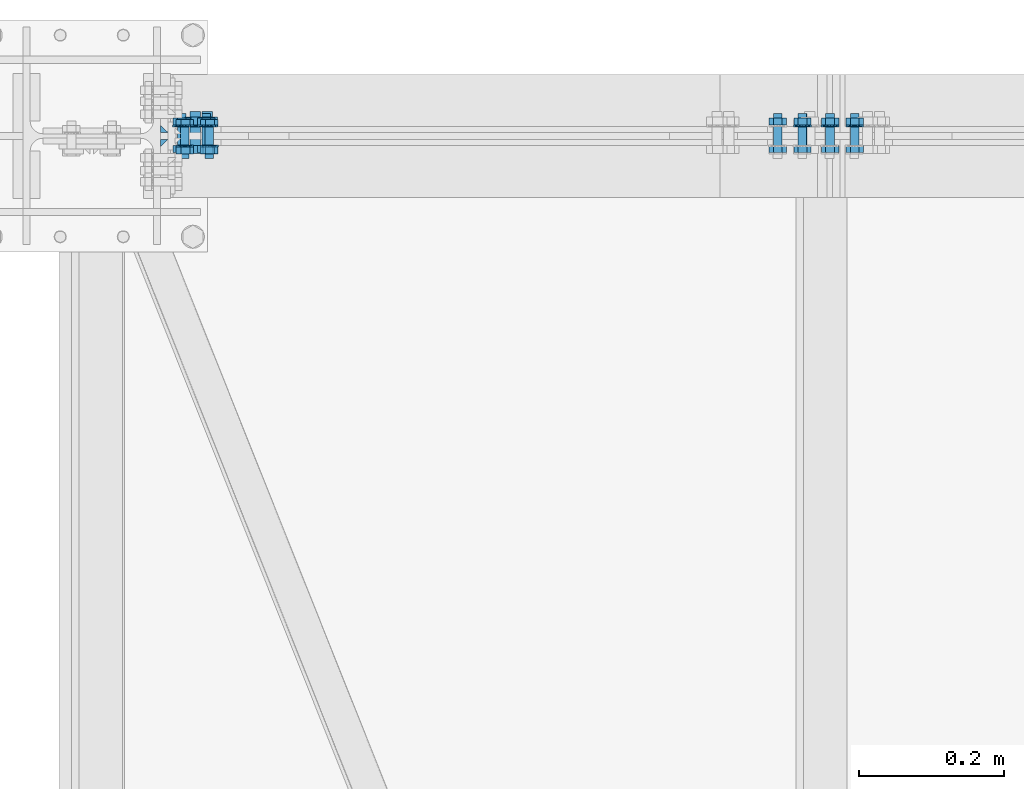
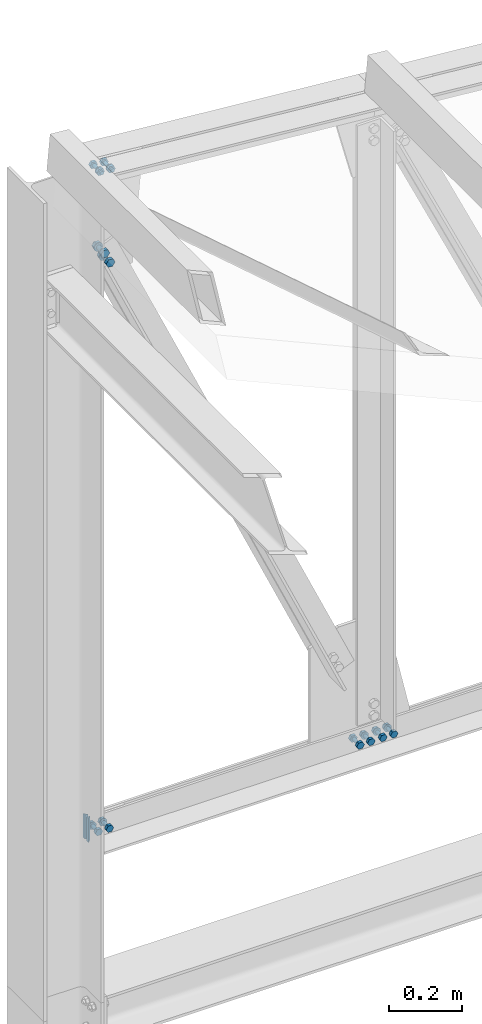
# One storey, part 191 of 251: 39 mechanical fasteners, 2 fasteners.
"""IFC4 building model written with IfcOpenShell, lengths in metres."""

from ifc_helpers import new_model, si_unit, frame, origin_with_axes, place, context, project, spatial, polyline, outline, extrude, type_object, element, save


model = new_model("IFC4")

# Units and contexts
model_context = context("Model", 3, precision=1e-05, world=origin_with_axes())
ifc_project = project(units=[si_unit("LENGTHUNIT", "METRE"), si_unit("AREAUNIT", "SQUARE_METRE"), si_unit("VOLUMEUNIT", "CUBIC_METRE"), si_unit("MASSUNIT", "GRAM", prefix="KILO"), si_unit("TIMEUNIT", "SECOND"), si_unit("PLANEANGLEUNIT", "RADIAN"), si_unit("SOLIDANGLEUNIT", "STERADIAN"), si_unit("THERMODYNAMICTEMPERATUREUNIT", "DEGREE_CELSIUS")], contexts=[model_context])

# Site, building, storey
placement_1 = place(None, origin_with_axes())
site = spatial("IfcSite", under=ifc_project, at=placement_1, Name="Italia", CompositionType="ELEMENT")
building = spatial("IfcBuilding", under=site, at=placement_1, Name="Deposito", CompositionType="ELEMENT")
storey = spatial("IfcBuildingStorey", under=building, at=placement_1, Name="Storey 0", CompositionType="ELEMENT", Elevation=0.0)

# Fasteners
fastener_type_1 = type_object("IfcFastenerType", Name="Reticolare 6", PredefinedType="WELD")
placement_2 = place(placement_1, origin_with_axes())
fastener_1_placement = place(placement_2, origin_with_axes())
element("IfcFastener", 1, at=fastener_1_placement, inside=storey, type_object=fastener_type_1, Name="Reticolare 6", context=model_context, shape_type="SweptSolid", body=[
    extrude(outline(polyline([(0.0, 0.0), (0.00986862, 0.0101733), (0.00986862, 0.0), (0.0, 0.0)])), frame((6.14495, 19.9852, 5.05753), z_axis=(0.0, 0.0, -1.0), x_axis=(0.0, 1.0, 0.0)), (0.0, 0.0, 1.0), 0.0801001),
])
fastener_type_2 = type_object("IfcFastenerType", Name="Reticolare 6", PredefinedType="WELD")
fastener_2_placement = place(placement_2, origin_with_axes())
element("IfcFastener", 2, at=fastener_2_placement, inside=storey, type_object=fastener_type_2, Name="Reticolare 6", context=model_context, shape_type="SweptSolid", body=[
    extrude(outline(polyline([(0.0, 0.0), (-0.00986862, -0.0101733), (-0.00986862, 0.0), (0.0, 0.0)])), frame((6.14495, 20.0148, 4.97743), z_axis=(0.0, 0.0, 1.0), x_axis=(0.0, 1.0, 0.0)), (0.0, 0.0, 1.0), 0.0801001),
])

# Mechanical fasteners
mechanical_fastener_type_1 = type_object("IfcMechanicalFastenerType", Name="Reticolare 6", PredefinedType="BOLT")
mechanical_fastener_1_placement = place(placement_2, origin_with_axes())
element("IfcMechanicalFastener", 3, at=mechanical_fastener_1_placement, inside=storey, type_object=mechanical_fastener_type_1, Name="Reticolare 6", NominalDiameter=0.0119999, context=model_context, shape_type="SweptSolid", body=[
    extrude(outline(polyline([(0.0, 0.0), (-0.0120001, 0.0), (-0.0180001, 0.0103922), (-0.0120001, 0.0207844), (0.0, 0.0207844), (0.00600004, 0.0103922), (0.0, 0.0)])), frame((6.18005, 19.987, 4.99661), z_axis=(0.0, -1.0, 0.0), x_axis=(1.0, 0.0, 0.0)), (0.0, 0.0, 1.0), 0.00959969),
])
mechanical_fastener_type_2 = type_object("IfcMechanicalFastenerType", Name="Reticolare 6", PredefinedType="BOLT")
mechanical_fastener_2_placement = place(placement_2, origin_with_axes())
element("IfcMechanicalFastener", 4, at=mechanical_fastener_2_placement, inside=storey, type_object=mechanical_fastener_type_2, Name="Reticolare 6", NominalDiameter=0.012, context=model_context, shape_type="SweptSolid", body=[
    extrude(outline(polyline([(0.0, 0.0), (-0.000204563, -0.00155306), (-0.000803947, -0.00299978), (-0.00175762, -0.00424242), (-0.00300026, -0.00519609), (-0.00444698, -0.00579548), (-0.00600004, -0.00600004), (-0.0075531, -0.00579548), (-0.00899982, -0.00519609), (-0.0102425, -0.00424242), (-0.0111961, -0.00299978), (-0.0117955, -0.00155306), (-0.0120001, 0.0), (-0.0117955, 0.00155306), (-0.0111961, 0.00299978), (-0.0102425, 0.00424242), (-0.00899982, 0.00519609), (-0.0075531, 0.00579548), (-0.00600004, 0.00600004), (-0.00444698, 0.00579548), (-0.00300026, 0.00519609), (-0.00175762, 0.00424242), (-0.000803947, 0.00299978), (-0.000204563, 0.00155306), (0.0, 0.0)])), frame((6.18005, 20.031, 5.007), z_axis=(0.0, -1.0, 0.0), x_axis=(1.0, 0.0, 0.0)), (0.0, 0.0, 1.0), 0.0440006),
])
mechanical_fastener_type_3 = type_object("IfcMechanicalFastenerType", Name="Reticolare 6", PredefinedType="BOLT")
mechanical_fastener_3_placement = place(placement_2, origin_with_axes())
element("IfcMechanicalFastener", 5, at=mechanical_fastener_3_placement, inside=storey, type_object=mechanical_fastener_type_3, Name="Reticolare 6", NominalDiameter=0.0119999, context=model_context, shape_type="SweptSolid", body=[
    extrude(outline(polyline([(0.0, 0.0), (-0.0120001, 0.0), (-0.0180001, 0.0103922), (-0.0120001, 0.0207844), (0.0, 0.0207844), (0.00600004, 0.0103922), (0.0, 0.0)])), frame((6.18005, 20.0246, 4.99661), z_axis=(0.0, -1.0, 0.0), x_axis=(1.0, 0.0, 0.0)), (0.0, 0.0, 1.0), 0.00959969),
])
mechanical_fastener_type_4 = type_object("IfcMechanicalFastenerType", Name="Reticolare 6", PredefinedType="BOLT")
mechanical_fastener_4_placement = place(placement_2, origin_with_axes())
element("IfcMechanicalFastener", 6, at=mechanical_fastener_4_placement, inside=storey, type_object=mechanical_fastener_type_4, Name="Reticolare 6", NominalDiameter=0.024, context=model_context, shape_type="SweptSolid", body=[
    extrude(outline(polyline([(0.0, 0.0), (-0.000409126, -0.00310564), (-0.00160789, -0.00600004), (-0.00351477, -0.00848532), (-0.00600004, -0.0103922), (-0.00889444, -0.011591), (-0.0120001, -0.0120001), (-0.0151057, -0.011591), (-0.0180001, -0.0103922), (-0.0204854, -0.00848532), (-0.0223923, -0.00600004), (-0.023591, -0.00310564), (-0.0240002, 0.0), (-0.023591, 0.00310564), (-0.0223923, 0.00600004), (-0.0204854, 0.00848532), (-0.0180001, 0.0103922), (-0.0151057, 0.011591), (-0.0120001, 0.0120001), (-0.00889444, 0.011591), (-0.00600004, 0.0103922), (-0.00351477, 0.00848532), (-0.00160789, 0.00600004), (-0.000409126, 0.00310564), (0.0, 0.0)])), frame((6.18605, 20.015, 5.007), z_axis=(0.0, -1.0, 0.0), x_axis=(1.0, 0.0, 0.0)), (0.0, 0.0, 1.0), 0.0019989),
])
mechanical_fastener_type_5 = type_object("IfcMechanicalFastenerType", Name="Reticolare 6", PredefinedType="BOLT")
mechanical_fastener_5_placement = place(placement_2, origin_with_axes())
element("IfcMechanicalFastener", 7, at=mechanical_fastener_5_placement, inside=storey, type_object=mechanical_fastener_type_5, Name="Reticolare 6", NominalDiameter=0.0119999, context=model_context, shape_type="SweptSolid", body=[
    extrude(outline(polyline([(0.0, 0.0), (-0.0120001, 0.0), (-0.0180001, 0.0103922), (-0.0120001, 0.0207844), (0.0, 0.0207844), (0.00600004, 0.0103922), (0.0, 0.0)])), frame((6.21405, 19.987, 4.99661), z_axis=(0.0, -1.0, 0.0), x_axis=(1.0, 0.0, 0.0)), (0.0, 0.0, 1.0), 0.00959969),
])
mechanical_fastener_type_6 = type_object("IfcMechanicalFastenerType", Name="Reticolare 6", PredefinedType="BOLT")
mechanical_fastener_6_placement = place(placement_2, origin_with_axes())
element("IfcMechanicalFastener", 8, at=mechanical_fastener_6_placement, inside=storey, type_object=mechanical_fastener_type_6, Name="Reticolare 6", NominalDiameter=0.012, context=model_context, shape_type="SweptSolid", body=[
    extrude(outline(polyline([(0.0, 0.0), (-0.000204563, -0.00155306), (-0.000803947, -0.00299978), (-0.00175762, -0.00424242), (-0.00300026, -0.00519609), (-0.00444698, -0.00579548), (-0.00600004, -0.00600004), (-0.0075531, -0.00579548), (-0.00899982, -0.00519609), (-0.0102425, -0.00424242), (-0.0111961, -0.00299978), (-0.0117955, -0.00155306), (-0.0120001, 0.0), (-0.0117955, 0.00155306), (-0.0111961, 0.00299978), (-0.0102425, 0.00424242), (-0.00899982, 0.00519609), (-0.0075531, 0.00579548), (-0.00600004, 0.00600004), (-0.00444698, 0.00579548), (-0.00300026, 0.00519609), (-0.00175762, 0.00424242), (-0.000803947, 0.00299978), (-0.000204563, 0.00155306), (0.0, 0.0)])), frame((6.21405, 20.031, 5.007), z_axis=(0.0, -1.0, 0.0), x_axis=(1.0, 0.0, 0.0)), (0.0, 0.0, 1.0), 0.0440006),
])
mechanical_fastener_type_7 = type_object("IfcMechanicalFastenerType", Name="Reticolare 6", PredefinedType="BOLT")
mechanical_fastener_7_placement = place(placement_2, origin_with_axes())
element("IfcMechanicalFastener", 9, at=mechanical_fastener_7_placement, inside=storey, type_object=mechanical_fastener_type_7, Name="Reticolare 6", NominalDiameter=0.0119999, context=model_context, shape_type="SweptSolid", body=[
    extrude(outline(polyline([(0.0, 0.0), (-0.0120001, 0.0), (-0.0180001, 0.0103922), (-0.0120001, 0.0207844), (0.0, 0.0207844), (0.00600004, 0.0103922), (0.0, 0.0)])), frame((6.21405, 20.0246, 4.99661), z_axis=(0.0, -1.0, 0.0), x_axis=(1.0, 0.0, 0.0)), (0.0, 0.0, 1.0), 0.00959969),
])
mechanical_fastener_type_8 = type_object("IfcMechanicalFastenerType", Name="Reticolare 6", PredefinedType="BOLT")
mechanical_fastener_8_placement = place(placement_2, origin_with_axes())
element("IfcMechanicalFastener", 10, at=mechanical_fastener_8_placement, inside=storey, type_object=mechanical_fastener_type_8, Name="Reticolare 6", NominalDiameter=0.024, context=model_context, shape_type="SweptSolid", body=[
    extrude(outline(polyline([(0.0, 0.0), (-0.000409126, -0.00310564), (-0.00160789, -0.00600004), (-0.00351477, -0.00848532), (-0.00600004, -0.0103922), (-0.00889444, -0.011591), (-0.0120001, -0.0120001), (-0.0151057, -0.011591), (-0.0180001, -0.0103922), (-0.0204854, -0.00848532), (-0.0223923, -0.00600004), (-0.023591, -0.00310564), (-0.0240002, 0.0), (-0.023591, 0.00310564), (-0.0223923, 0.00600004), (-0.0204854, 0.00848532), (-0.0180001, 0.0103922), (-0.0151057, 0.011591), (-0.0120001, 0.0120001), (-0.00889444, 0.011591), (-0.00600004, 0.0103922), (-0.00351477, 0.00848532), (-0.00160789, 0.00600004), (-0.000409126, 0.00310564), (0.0, 0.0)])), frame((6.22005, 20.015, 5.007), z_axis=(0.0, -1.0, 0.0), x_axis=(1.0, 0.0, 0.0)), (0.0, 0.0, 1.0), 0.0019989),
])
mechanical_fastener_type_9 = type_object("IfcMechanicalFastenerType", Name="Reticolare 6", PredefinedType="BOLT")
mechanical_fastener_9_placement = place(placement_2, origin_with_axes())
element("IfcMechanicalFastener", 11, at=mechanical_fastener_9_placement, inside=storey, type_object=mechanical_fastener_type_9, Name="Reticolare 6", NominalDiameter=0.0119999, context=model_context, shape_type="SweptSolid", body=[
    extrude(outline(polyline([(0.0, 0.0), (-0.0120001, 0.0), (-0.0180001, 0.0103922), (-0.0120001, 0.0207844), (0.0, 0.0207844), (0.00600004, 0.0103922), (0.0, 0.0)])), frame((7.07447, 19.987, 4.99661), z_axis=(0.0, -1.0, 0.0), x_axis=(1.0, 0.0, 0.0)), (0.0, 0.0, 1.0), 0.00959969),
])
mechanical_fastener_type_10 = type_object("IfcMechanicalFastenerType", Name="Reticolare 6", PredefinedType="BOLT")
mechanical_fastener_10_placement = place(placement_2, origin_with_axes())
element("IfcMechanicalFastener", 12, at=mechanical_fastener_10_placement, inside=storey, type_object=mechanical_fastener_type_10, Name="Reticolare 6", NominalDiameter=0.012, context=model_context, shape_type="SweptSolid", body=[
    extrude(outline(polyline([(0.0, 0.0), (-0.000204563, -0.00155306), (-0.000803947, -0.00299978), (-0.00175762, -0.00424242), (-0.00300026, -0.00519609), (-0.00444698, -0.00579548), (-0.00600004, -0.00600004), (-0.0075531, -0.00579548), (-0.00899982, -0.00519609), (-0.0102425, -0.00424242), (-0.0111961, -0.00299978), (-0.0117955, -0.00155306), (-0.0120001, 0.0), (-0.0117955, 0.00155306), (-0.0111961, 0.00299978), (-0.0102425, 0.00424242), (-0.00899982, 0.00519609), (-0.0075531, 0.00579548), (-0.00600004, 0.00600004), (-0.00444698, 0.00579548), (-0.00300026, 0.00519609), (-0.00175762, 0.00424242), (-0.000803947, 0.00299978), (-0.000204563, 0.00155306), (0.0, 0.0)])), frame((7.07447, 20.031, 5.007), z_axis=(0.0, -1.0, 0.0), x_axis=(1.0, 0.0, 0.0)), (0.0, 0.0, 1.0), 0.0440006),
])
mechanical_fastener_type_11 = type_object("IfcMechanicalFastenerType", Name="Reticolare 6", PredefinedType="BOLT")
mechanical_fastener_11_placement = place(placement_2, origin_with_axes())
element("IfcMechanicalFastener", 13, at=mechanical_fastener_11_placement, inside=storey, type_object=mechanical_fastener_type_11, Name="Reticolare 6", NominalDiameter=0.0119999, context=model_context, shape_type="SweptSolid", body=[
    extrude(outline(polyline([(0.0, 0.0), (-0.0120001, 0.0), (-0.0180001, 0.0103922), (-0.0120001, 0.0207844), (0.0, 0.0207844), (0.00600004, 0.0103922), (0.0, 0.0)])), frame((7.07447, 20.0246, 4.99661), z_axis=(0.0, -1.0, 0.0), x_axis=(1.0, 0.0, 0.0)), (0.0, 0.0, 1.0), 0.00959969),
])
mechanical_fastener_type_12 = type_object("IfcMechanicalFastenerType", Name="Reticolare 6", PredefinedType="BOLT")
mechanical_fastener_12_placement = place(placement_2, origin_with_axes())
element("IfcMechanicalFastener", 14, at=mechanical_fastener_12_placement, inside=storey, type_object=mechanical_fastener_type_12, Name="Reticolare 6", NominalDiameter=0.024, context=model_context, shape_type="SweptSolid", body=[
    extrude(outline(polyline([(0.0, 0.0), (-0.000409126, -0.00310564), (-0.00160789, -0.00600004), (-0.00351477, -0.00848532), (-0.00600004, -0.0103922), (-0.00889444, -0.011591), (-0.0120001, -0.0120001), (-0.0151057, -0.011591), (-0.0180001, -0.0103922), (-0.0204854, -0.00848532), (-0.0223923, -0.00600004), (-0.023591, -0.00310564), (-0.0240002, 0.0), (-0.023591, 0.00310564), (-0.0223923, 0.00600004), (-0.0204854, 0.00848532), (-0.0180001, 0.0103922), (-0.0151057, 0.011591), (-0.0120001, 0.0120001), (-0.00889444, 0.011591), (-0.00600004, 0.0103922), (-0.00351477, 0.00848532), (-0.00160789, 0.00600004), (-0.000409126, 0.00310564), (0.0, 0.0)])), frame((7.08047, 20.015, 5.007), z_axis=(0.0, -1.0, 0.0), x_axis=(1.0, 0.0, 0.0)), (0.0, 0.0, 1.0), 0.0019989),
])
mechanical_fastener_type_13 = type_object("IfcMechanicalFastenerType", Name="Reticolare 6", PredefinedType="BOLT")
mechanical_fastener_13_placement = place(placement_2, origin_with_axes())
element("IfcMechanicalFastener", 15, at=mechanical_fastener_13_placement, inside=storey, type_object=mechanical_fastener_type_13, Name="Reticolare 6", NominalDiameter=0.0119999, context=model_context, shape_type="SweptSolid", body=[
    extrude(outline(polyline([(0.0, 0.0), (-0.0120001, 0.0), (-0.0180001, 0.0103922), (-0.0120001, 0.0207844), (0.0, 0.0207844), (0.00600004, 0.0103922), (0.0, 0.0)])), frame((7.10847, 19.987, 4.99661), z_axis=(0.0, -1.0, 0.0), x_axis=(1.0, 0.0, 0.0)), (0.0, 0.0, 1.0), 0.00959969),
])
mechanical_fastener_type_14 = type_object("IfcMechanicalFastenerType", Name="Reticolare 6", PredefinedType="BOLT")
mechanical_fastener_14_placement = place(placement_2, origin_with_axes())
element("IfcMechanicalFastener", 16, at=mechanical_fastener_14_placement, inside=storey, type_object=mechanical_fastener_type_14, Name="Reticolare 6", NominalDiameter=0.012, context=model_context, shape_type="SweptSolid", body=[
    extrude(outline(polyline([(0.0, 0.0), (-0.000204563, -0.00155306), (-0.000803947, -0.00299978), (-0.00175762, -0.00424242), (-0.00300026, -0.00519609), (-0.00444698, -0.00579548), (-0.00600004, -0.00600004), (-0.0075531, -0.00579548), (-0.00899982, -0.00519609), (-0.0102425, -0.00424242), (-0.0111961, -0.00299978), (-0.0117955, -0.00155306), (-0.0120001, 0.0), (-0.0117955, 0.00155306), (-0.0111961, 0.00299978), (-0.0102425, 0.00424242), (-0.00899982, 0.00519609), (-0.0075531, 0.00579548), (-0.00600004, 0.00600004), (-0.00444698, 0.00579548), (-0.00300026, 0.00519609), (-0.00175762, 0.00424242), (-0.000803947, 0.00299978), (-0.000204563, 0.00155306), (0.0, 0.0)])), frame((7.10847, 20.031, 5.007), z_axis=(0.0, -1.0, 0.0), x_axis=(1.0, 0.0, 0.0)), (0.0, 0.0, 1.0), 0.0440006),
])
mechanical_fastener_type_15 = type_object("IfcMechanicalFastenerType", Name="Reticolare 6", PredefinedType="BOLT")
mechanical_fastener_15_placement = place(placement_2, origin_with_axes())
element("IfcMechanicalFastener", 17, at=mechanical_fastener_15_placement, inside=storey, type_object=mechanical_fastener_type_15, Name="Reticolare 6", NominalDiameter=0.0119999, context=model_context, shape_type="SweptSolid", body=[
    extrude(outline(polyline([(0.0, 0.0), (-0.0120001, 0.0), (-0.0180001, 0.0103922), (-0.0120001, 0.0207844), (0.0, 0.0207844), (0.00600004, 0.0103922), (0.0, 0.0)])), frame((7.10847, 20.0246, 4.99661), z_axis=(0.0, -1.0, 0.0), x_axis=(1.0, 0.0, 0.0)), (0.0, 0.0, 1.0), 0.00959969),
])
mechanical_fastener_type_16 = type_object("IfcMechanicalFastenerType", Name="Reticolare 6", PredefinedType="BOLT")
mechanical_fastener_16_placement = place(placement_2, origin_with_axes())
element("IfcMechanicalFastener", 18, at=mechanical_fastener_16_placement, inside=storey, type_object=mechanical_fastener_type_16, Name="Reticolare 6", NominalDiameter=0.024, context=model_context, shape_type="SweptSolid", body=[
    extrude(outline(polyline([(0.0, 0.0), (-0.000409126, -0.00310564), (-0.00160789, -0.00600004), (-0.00351477, -0.00848532), (-0.00600004, -0.0103922), (-0.00889444, -0.011591), (-0.0120001, -0.0120001), (-0.0151057, -0.011591), (-0.0180001, -0.0103922), (-0.0204854, -0.00848532), (-0.0223923, -0.00600004), (-0.023591, -0.00310564), (-0.0240002, 0.0), (-0.023591, 0.00310564), (-0.0223923, 0.00600004), (-0.0204854, 0.00848532), (-0.0180001, 0.0103922), (-0.0151057, 0.011591), (-0.0120001, 0.0120001), (-0.00889444, 0.011591), (-0.00600004, 0.0103922), (-0.00351477, 0.00848532), (-0.00160789, 0.00600004), (-0.000409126, 0.00310564), (0.0, 0.0)])), frame((7.11447, 20.015, 5.007), z_axis=(0.0, -1.0, 0.0), x_axis=(1.0, 0.0, 0.0)), (0.0, 0.0, 1.0), 0.0019989),
])
mechanical_fastener_type_17 = type_object("IfcMechanicalFastenerType", Name="Reticolare 6", PredefinedType="BOLT")
mechanical_fastener_17_placement = place(placement_2, origin_with_axes())
element("IfcMechanicalFastener", 19, at=mechanical_fastener_17_placement, inside=storey, type_object=mechanical_fastener_type_17, Name="Reticolare 6", NominalDiameter=0.0119999, context=model_context, shape_type="SweptSolid", body=[
    extrude(outline(polyline([(0.0, 0.0), (-0.0120001, 0.0), (-0.0180001, 0.0103922), (-0.0120001, 0.0207844), (0.0, 0.0207844), (0.00600004, 0.0103922), (0.0, 0.0)])), frame((7.03647, 19.987, 4.99661), z_axis=(0.0, -1.0, 0.0), x_axis=(1.0, 0.0, 0.0)), (0.0, 0.0, 1.0), 0.00959969),
])
mechanical_fastener_type_18 = type_object("IfcMechanicalFastenerType", Name="Reticolare 6", PredefinedType="BOLT")
mechanical_fastener_18_placement = place(placement_2, origin_with_axes())
element("IfcMechanicalFastener", 20, at=mechanical_fastener_18_placement, inside=storey, type_object=mechanical_fastener_type_18, Name="Reticolare 6", NominalDiameter=0.012, context=model_context, shape_type="SweptSolid", body=[
    extrude(outline(polyline([(0.0, 0.0), (-0.000204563, -0.00155306), (-0.000803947, -0.00299978), (-0.00175762, -0.00424242), (-0.00300026, -0.00519609), (-0.00444698, -0.00579548), (-0.00600004, -0.00600004), (-0.0075531, -0.00579548), (-0.00899982, -0.00519609), (-0.0102425, -0.00424242), (-0.0111961, -0.00299978), (-0.0117955, -0.00155306), (-0.0120001, 0.0), (-0.0117955, 0.00155306), (-0.0111961, 0.00299978), (-0.0102425, 0.00424242), (-0.00899982, 0.00519609), (-0.0075531, 0.00579548), (-0.00600004, 0.00600004), (-0.00444698, 0.00579548), (-0.00300026, 0.00519609), (-0.00175762, 0.00424242), (-0.000803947, 0.00299978), (-0.000204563, 0.00155306), (0.0, 0.0)])), frame((7.03647, 20.031, 5.007), z_axis=(0.0, -1.0, 0.0), x_axis=(1.0, 0.0, 0.0)), (0.0, 0.0, 1.0), 0.0440006),
])
mechanical_fastener_type_19 = type_object("IfcMechanicalFastenerType", Name="Reticolare 6", PredefinedType="BOLT")
mechanical_fastener_19_placement = place(placement_2, origin_with_axes())
element("IfcMechanicalFastener", 21, at=mechanical_fastener_19_placement, inside=storey, type_object=mechanical_fastener_type_19, Name="Reticolare 6", NominalDiameter=0.0119999, context=model_context, shape_type="SweptSolid", body=[
    extrude(outline(polyline([(0.0, 0.0), (-0.0120001, 0.0), (-0.0180001, 0.0103922), (-0.0120001, 0.0207844), (0.0, 0.0207844), (0.00600004, 0.0103922), (0.0, 0.0)])), frame((7.03647, 20.0246, 4.99661), z_axis=(0.0, -1.0, 0.0), x_axis=(1.0, 0.0, 0.0)), (0.0, 0.0, 1.0), 0.00959969),
])
mechanical_fastener_type_20 = type_object("IfcMechanicalFastenerType", Name="Reticolare 6", PredefinedType="BOLT")
mechanical_fastener_20_placement = place(placement_2, origin_with_axes())
element("IfcMechanicalFastener", 22, at=mechanical_fastener_20_placement, inside=storey, type_object=mechanical_fastener_type_20, Name="Reticolare 6", NominalDiameter=0.024, context=model_context, shape_type="SweptSolid", body=[
    extrude(outline(polyline([(0.0, 0.0), (-0.000409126, -0.00310564), (-0.00160789, -0.00600004), (-0.00351477, -0.00848532), (-0.00600004, -0.0103922), (-0.00889444, -0.011591), (-0.0120001, -0.0120001), (-0.0151057, -0.011591), (-0.0180001, -0.0103922), (-0.0204854, -0.00848532), (-0.0223923, -0.00600004), (-0.023591, -0.00310564), (-0.0240002, 0.0), (-0.023591, 0.00310564), (-0.0223923, 0.00600004), (-0.0204854, 0.00848532), (-0.0180001, 0.0103922), (-0.0151057, 0.011591), (-0.0120001, 0.0120001), (-0.00889444, 0.011591), (-0.00600004, 0.0103922), (-0.00351477, 0.00848532), (-0.00160789, 0.00600004), (-0.000409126, 0.00310564), (0.0, 0.0)])), frame((7.04247, 20.015, 5.007), z_axis=(0.0, -1.0, 0.0), x_axis=(1.0, 0.0, 0.0)), (0.0, 0.0, 1.0), 0.0019989),
])
mechanical_fastener_type_21 = type_object("IfcMechanicalFastenerType", Name="Reticolare 6", PredefinedType="BOLT")
mechanical_fastener_21_placement = place(placement_2, origin_with_axes())
element("IfcMechanicalFastener", 23, at=mechanical_fastener_21_placement, inside=storey, type_object=mechanical_fastener_type_21, Name="Reticolare 6", NominalDiameter=0.0119999, context=model_context, shape_type="SweptSolid", body=[
    extrude(outline(polyline([(0.0, 0.0), (-0.0120001, 0.0), (-0.0180001, 0.0103922), (-0.0120001, 0.0207844), (0.0, 0.0207844), (0.00600004, 0.0103922), (0.0, 0.0)])), frame((7.00247, 19.987, 4.99661), z_axis=(0.0, -1.0, 0.0), x_axis=(1.0, 0.0, 0.0)), (0.0, 0.0, 1.0), 0.00959969),
])
mechanical_fastener_type_22 = type_object("IfcMechanicalFastenerType", Name="Reticolare 6", PredefinedType="BOLT")
mechanical_fastener_22_placement = place(placement_2, origin_with_axes())
element("IfcMechanicalFastener", 24, at=mechanical_fastener_22_placement, inside=storey, type_object=mechanical_fastener_type_22, Name="Reticolare 6", NominalDiameter=0.012, context=model_context, shape_type="SweptSolid", body=[
    extrude(outline(polyline([(0.0, 0.0), (-0.000204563, -0.00155306), (-0.000803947, -0.00299978), (-0.00175762, -0.00424242), (-0.00300026, -0.00519609), (-0.00444698, -0.00579548), (-0.00600004, -0.00600004), (-0.0075531, -0.00579548), (-0.00899982, -0.00519609), (-0.0102425, -0.00424242), (-0.0111961, -0.00299978), (-0.0117955, -0.00155306), (-0.0120001, 0.0), (-0.0117955, 0.00155306), (-0.0111961, 0.00299978), (-0.0102425, 0.00424242), (-0.00899982, 0.00519609), (-0.0075531, 0.00579548), (-0.00600004, 0.00600004), (-0.00444698, 0.00579548), (-0.00300026, 0.00519609), (-0.00175762, 0.00424242), (-0.000803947, 0.00299978), (-0.000204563, 0.00155306), (0.0, 0.0)])), frame((7.00247, 20.031, 5.007), z_axis=(0.0, -1.0, 0.0), x_axis=(1.0, 0.0, 0.0)), (0.0, 0.0, 1.0), 0.0440006),
])
mechanical_fastener_type_23 = type_object("IfcMechanicalFastenerType", Name="Reticolare 6", PredefinedType="BOLT")
mechanical_fastener_23_placement = place(placement_2, origin_with_axes())
element("IfcMechanicalFastener", 25, at=mechanical_fastener_23_placement, inside=storey, type_object=mechanical_fastener_type_23, Name="Reticolare 6", NominalDiameter=0.0119999, context=model_context, shape_type="SweptSolid", body=[
    extrude(outline(polyline([(0.0, 0.0), (-0.0120001, 0.0), (-0.0180001, 0.0103922), (-0.0120001, 0.0207844), (0.0, 0.0207844), (0.00600004, 0.0103922), (0.0, 0.0)])), frame((7.00247, 20.0246, 4.99661), z_axis=(0.0, -1.0, 0.0), x_axis=(1.0, 0.0, 0.0)), (0.0, 0.0, 1.0), 0.00959969),
])
mechanical_fastener_type_24 = type_object("IfcMechanicalFastenerType", Name="Reticolare 6", PredefinedType="BOLT")
mechanical_fastener_24_placement = place(placement_2, origin_with_axes())
element("IfcMechanicalFastener", 26, at=mechanical_fastener_24_placement, inside=storey, type_object=mechanical_fastener_type_24, Name="Reticolare 6", NominalDiameter=0.012, context=model_context, shape_type="SweptSolid", body=[
    extrude(outline(polyline([(0.0, 0.0), (0.0119548, 0.00104237), (0.0188351, -0.00878954), (0.0137606, -0.0196638), (0.00180578, -0.0207062), (-0.0050745, -0.0108743), (0.0, 0.0)])), frame((6.18524, 20.013, 7.21179), z_axis=(0.0, 1.0, 0.0), x_axis=(-1.0, 0.0, 0.0)), (0.0, 0.0, 1.0), 0.00959969),
])
mechanical_fastener_type_25 = type_object("IfcMechanicalFastenerType", Name="Reticolare 6", PredefinedType="BOLT")
mechanical_fastener_25_placement = place(placement_2, origin_with_axes())
element("IfcMechanicalFastener", 27, at=mechanical_fastener_25_placement, inside=storey, type_object=mechanical_fastener_type_25, Name="Reticolare 6", NominalDiameter=0.012, context=model_context, shape_type="SweptSolid", body=[
    extrude(outline(polyline([(0.0, 0.0), (-0.000204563, -0.00155306), (-0.000803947, -0.00299978), (-0.00175762, -0.00424242), (-0.00300026, -0.00519609), (-0.00444698, -0.00579548), (-0.00600004, -0.00600004), (-0.0075531, -0.00579548), (-0.00899982, -0.00519609), (-0.0102425, -0.00424242), (-0.0111961, -0.00299978), (-0.0117955, -0.00155306), (-0.0120001, 0.0), (-0.0117955, 0.00155306), (-0.0111961, 0.00299978), (-0.0102425, 0.00424242), (-0.00899982, 0.00519609), (-0.0075531, 0.00579548), (-0.00600004, 0.00600004), (-0.00444698, 0.00579548), (-0.00300026, 0.00519609), (-0.00175762, 0.00424242), (-0.000803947, 0.00299978), (-0.000204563, 0.00155306), (0.0, 0.0)])), frame((6.17236, 19.969, 7.20196), z_axis=(0.0, 1.0, 0.0), x_axis=(-1.0, 0.0, 0.0)), (0.0, 0.0, 1.0), 0.0440006),
])
mechanical_fastener_type_26 = type_object("IfcMechanicalFastenerType", Name="Reticolare 6", PredefinedType="BOLT")
mechanical_fastener_26_placement = place(placement_2, origin_with_axes())
element("IfcMechanicalFastener", 28, at=mechanical_fastener_26_placement, inside=storey, type_object=mechanical_fastener_type_26, Name="Reticolare 6", NominalDiameter=0.012, context=model_context, shape_type="SweptSolid", body=[
    extrude(outline(polyline([(0.0, 0.0), (0.0119548, 0.00104237), (0.0188351, -0.00878954), (0.0137606, -0.0196638), (0.00180578, -0.0207062), (-0.0050745, -0.0108743), (0.0, 0.0)])), frame((6.18524, 19.9754, 7.21179), z_axis=(0.0, 1.0, 0.0), x_axis=(-1.0, 0.0, 0.0)), (0.0, 0.0, 1.0), 0.00959969),
])
mechanical_fastener_type_27 = type_object("IfcMechanicalFastenerType", Name="Reticolare 6", PredefinedType="BOLT")
mechanical_fastener_27_placement = place(placement_2, origin_with_axes())
element("IfcMechanicalFastener", 29, at=mechanical_fastener_27_placement, inside=storey, type_object=mechanical_fastener_type_27, Name="Reticolare 6", NominalDiameter=0.024, context=model_context, shape_type="SweptSolid", body=[
    extrude(outline(polyline([(0.0, 0.0), (-0.000409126, -0.00310564), (-0.00160789, -0.00600004), (-0.00351477, -0.00848532), (-0.00600004, -0.0103922), (-0.00889444, -0.011591), (-0.0120001, -0.0120001), (-0.0151057, -0.011591), (-0.0180001, -0.0103922), (-0.0204854, -0.00848532), (-0.0223923, -0.00600004), (-0.023591, -0.00310564), (-0.0240002, 0.0), (-0.023591, 0.00310564), (-0.0223923, 0.00600004), (-0.0204854, 0.00848532), (-0.0180001, 0.0103922), (-0.0151057, 0.011591), (-0.0120001, 0.0120001), (-0.00889444, 0.011591), (-0.00600004, 0.0103922), (-0.00351477, 0.00848532), (-0.00160789, 0.00600004), (-0.000409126, 0.00310564), (0.0, 0.0)])), frame((6.16636, 19.985, 7.20196), z_axis=(0.0, 1.0, 0.0), x_axis=(-1.0, 0.0, 0.0)), (0.0, 0.0, 1.0), 0.0019989),
])
mechanical_fastener_type_28 = type_object("IfcMechanicalFastenerType", Name="Reticolare 6", PredefinedType="BOLT")
mechanical_fastener_28_placement = place(placement_2, origin_with_axes())
element("IfcMechanicalFastener", 30, at=mechanical_fastener_28_placement, inside=storey, type_object=mechanical_fastener_type_28, Name="Reticolare 6", NominalDiameter=0.0119995, context=model_context, shape_type="SweptSolid", body=[
    extrude(outline(polyline([(0.0, 0.0), (0.0119543, 0.00104284), (0.0188346, -0.00878906), (0.0137601, -0.0196633), (0.00180531, -0.0207057), (-0.0050745, -0.0108743), (0.0, 0.0)])), frame((6.21912, 20.013, 7.20884), z_axis=(0.0, 1.0, 0.0), x_axis=(-1.0, 0.0, 0.0)), (0.0, 0.0, 1.0), 0.00959969),
])
mechanical_fastener_type_29 = type_object("IfcMechanicalFastenerType", Name="Reticolare 6", PredefinedType="BOLT")
mechanical_fastener_29_placement = place(placement_2, origin_with_axes())
element("IfcMechanicalFastener", 31, at=mechanical_fastener_29_placement, inside=storey, type_object=mechanical_fastener_type_29, Name="Reticolare 6", NominalDiameter=0.012, context=model_context, shape_type="SweptSolid", body=[
    extrude(outline(polyline([(0.0, 0.0), (-0.000204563, -0.00155306), (-0.000803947, -0.00299978), (-0.00175762, -0.00424242), (-0.00300026, -0.00519609), (-0.00444698, -0.00579548), (-0.00600004, -0.00600004), (-0.0075531, -0.00579548), (-0.00899982, -0.00519609), (-0.0102425, -0.00424242), (-0.0111961, -0.00299978), (-0.0117955, -0.00155306), (-0.0120001, 0.0), (-0.0117955, 0.00155306), (-0.0111961, 0.00299978), (-0.0102425, 0.00424242), (-0.00899982, 0.00519609), (-0.0075531, 0.00579548), (-0.00600004, 0.00600004), (-0.00444698, 0.00579548), (-0.00300026, 0.00519609), (-0.00175762, 0.00424242), (-0.000803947, 0.00299978), (-0.000204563, 0.00155306), (0.0, 0.0)])), frame((6.20624, 19.969, 7.19901), z_axis=(0.0, 1.0, 0.0), x_axis=(-1.0, 0.0, 0.0)), (0.0, 0.0, 1.0), 0.0440006),
])
mechanical_fastener_type_30 = type_object("IfcMechanicalFastenerType", Name="Reticolare 6", PredefinedType="BOLT")
mechanical_fastener_30_placement = place(placement_2, origin_with_axes())
element("IfcMechanicalFastener", 32, at=mechanical_fastener_30_placement, inside=storey, type_object=mechanical_fastener_type_30, Name="Reticolare 6", NominalDiameter=0.0119995, context=model_context, shape_type="SweptSolid", body=[
    extrude(outline(polyline([(0.0, 0.0), (0.0119543, 0.00104284), (0.0188346, -0.00878906), (0.0137601, -0.0196633), (0.00180531, -0.0207057), (-0.0050745, -0.0108743), (0.0, 0.0)])), frame((6.21912, 19.9754, 7.20884), z_axis=(0.0, 1.0, 0.0), x_axis=(-1.0, 0.0, 0.0)), (0.0, 0.0, 1.0), 0.00959969),
])
mechanical_fastener_type_31 = type_object("IfcMechanicalFastenerType", Name="Reticolare 6", PredefinedType="BOLT")
mechanical_fastener_31_placement = place(placement_2, origin_with_axes())
element("IfcMechanicalFastener", 33, at=mechanical_fastener_31_placement, inside=storey, type_object=mechanical_fastener_type_31, Name="Reticolare 6", NominalDiameter=0.024, context=model_context, shape_type="SweptSolid", body=[
    extrude(outline(polyline([(0.0, 0.0), (-0.000409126, -0.00310564), (-0.00160789, -0.00600004), (-0.00351477, -0.00848532), (-0.00600004, -0.0103922), (-0.00889444, -0.011591), (-0.0120001, -0.0120001), (-0.0151057, -0.011591), (-0.0180001, -0.0103922), (-0.0204854, -0.00848532), (-0.0223923, -0.00600004), (-0.023591, -0.00310564), (-0.0240002, 0.0), (-0.023591, 0.00310564), (-0.0223923, 0.00600004), (-0.0204854, 0.00848532), (-0.0180001, 0.0103922), (-0.0151057, 0.011591), (-0.0120001, 0.0120001), (-0.00889444, 0.011591), (-0.00600004, 0.0103922), (-0.00351477, 0.00848532), (-0.00160789, 0.00600004), (-0.000409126, 0.00310564), (0.0, 0.0)])), frame((6.20024, 19.985, 7.19901), z_axis=(0.0, 1.0, 0.0), x_axis=(-1.0, 0.0, 0.0)), (0.0, 0.0, 1.0), 0.0019989),
])
mechanical_fastener_type_32 = type_object("IfcMechanicalFastenerType", Name="Reticolare 6", PredefinedType="BOLT")
mechanical_fastener_32_placement = place(placement_2, origin_with_axes())
element("IfcMechanicalFastener", 34, at=mechanical_fastener_32_placement, inside=storey, type_object=mechanical_fastener_type_32, Name="Reticolare 6", NominalDiameter=0.0139996, context=model_context, shape_type="SweptSolid", body=[
    extrude(outline(polyline([(0.0, 0.0), (-0.00574732, 0.0127664), (0.00243521, 0.0241261), (0.0163646, 0.0227203), (0.0221114, 0.00995398), (0.0139289, -0.00140572), (0.0, 0.0)])), frame((6.18464, 19.987, 6.91349), z_axis=(0.0, -1.0, 0.0), x_axis=(1.0, 0.0, 0.0)), (0.0, 0.0, 1.0), 0.0112),
])
mechanical_fastener_type_33 = type_object("IfcMechanicalFastenerType", Name="Reticolare 6", PredefinedType="BOLT")
mechanical_fastener_33_placement = place(placement_2, origin_with_axes())
element("IfcMechanicalFastener", 35, at=mechanical_fastener_33_placement, inside=storey, type_object=mechanical_fastener_type_33, Name="Reticolare 6", NominalDiameter=0.014, context=model_context, shape_type="SweptSolid", body=[
    extrude(outline(polyline([(0.0, 0.0), (-0.000238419, -0.0018115), (-0.000937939, -0.00349998), (-0.0020504, -0.00494957), (-0.00349998, -0.00606203), (-0.00518847, -0.00676155), (-0.00699997, -0.00699997), (-0.00881147, -0.00676155), (-0.0105, -0.00606203), (-0.0119495, -0.00494957), (-0.013062, -0.00349998), (-0.0137615, -0.0018115), (-0.0139999, 0.0), (-0.0137615, 0.0018115), (-0.013062, 0.00349998), (-0.0119495, 0.00494957), (-0.0105, 0.00606203), (-0.00881147, 0.00676155), (-0.00699997, 0.00699997), (-0.00518847, 0.00676155), (-0.00349998, 0.00606203), (-0.0020504, 0.00494957), (-0.000937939, 0.00349998), (-0.000238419, 0.0018115), (0.0, 0.0)])), frame((6.19982, 20.034, 6.92485), z_axis=(0.0, -1.0, 0.0), x_axis=(1.0, 0.0, 0.0)), (0.0, 0.0, 1.0), 0.0470009),
])
mechanical_fastener_type_34 = type_object("IfcMechanicalFastenerType", Name="Reticolare 6", PredefinedType="BOLT")
mechanical_fastener_34_placement = place(placement_2, origin_with_axes())
element("IfcMechanicalFastener", 36, at=mechanical_fastener_34_placement, inside=storey, type_object=mechanical_fastener_type_34, Name="Reticolare 6", NominalDiameter=0.0139996, context=model_context, shape_type="SweptSolid", body=[
    extrude(outline(polyline([(0.0, 0.0), (-0.00574732, 0.0127664), (0.00243521, 0.0241261), (0.0163646, 0.0227203), (0.0221114, 0.00995398), (0.0139289, -0.00140572), (0.0, 0.0)])), frame((6.18464, 20.0262, 6.91349), z_axis=(0.0, -1.0, 0.0), x_axis=(1.0, 0.0, 0.0)), (0.0, 0.0, 1.0), 0.0112),
])
mechanical_fastener_type_35 = type_object("IfcMechanicalFastenerType", Name="Reticolare 6", PredefinedType="BOLT")
mechanical_fastener_35_placement = place(placement_2, origin_with_axes())
element("IfcMechanicalFastener", 37, at=mechanical_fastener_35_placement, inside=storey, type_object=mechanical_fastener_type_35, Name="Reticolare 6", NominalDiameter=0.028, context=model_context, shape_type="SweptSolid", body=[
    extrude(outline(polyline([(0.0, 0.0), (-0.000476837, -0.00362349), (-0.0018754, -0.00699997), (-0.00410032, -0.00989962), (-0.00699997, -0.0121245), (-0.0103765, -0.0135231), (-0.0139999, -0.0139999), (-0.0176234, -0.0135231), (-0.0209999, -0.0121245), (-0.0238996, -0.00989962), (-0.0261245, -0.00699997), (-0.027523, -0.00362349), (-0.0279999, 0.0), (-0.027523, 0.00362349), (-0.0261245, 0.00699997), (-0.0238996, 0.00989962), (-0.0209999, 0.0121245), (-0.0176234, 0.0135231), (-0.0139999, 0.0139999), (-0.0103765, 0.0135231), (-0.00699997, 0.0121245), (-0.00410032, 0.00989962), (-0.0018754, 0.00699997), (-0.000476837, 0.00362349), (0.0, 0.0)])), frame((6.20682, 20.015, 6.92485), z_axis=(0.0, -1.0, 0.0), x_axis=(1.0, 0.0, 0.0)), (0.0, 0.0, 1.0), 0.0019989),
])
mechanical_fastener_type_36 = type_object("IfcMechanicalFastenerType", Name="Reticolare 6", PredefinedType="BOLT")
mechanical_fastener_36_placement = place(placement_2, origin_with_axes())
element("IfcMechanicalFastener", 38, at=mechanical_fastener_36_placement, inside=storey, type_object=mechanical_fastener_type_36, Name="Reticolare 6", NominalDiameter=0.0139997, context=model_context, shape_type="SweptSolid", body=[
    extrude(outline(polyline([(0.0, 0.0), (-0.00574732, 0.0127659), (0.00243521, 0.0241261), (0.0163641, 0.0227199), (0.0221114, 0.00995398), (0.0139289, -0.00140619), (0.0, 0.0)])), frame((6.20106, 19.987, 6.87702), z_axis=(0.0, -1.0, 0.0), x_axis=(1.0, 0.0, 0.0)), (0.0, 0.0, 1.0), 0.0112),
])
mechanical_fastener_type_37 = type_object("IfcMechanicalFastenerType", Name="Reticolare 6", PredefinedType="BOLT")
mechanical_fastener_37_placement = place(placement_2, origin_with_axes())
element("IfcMechanicalFastener", 39, at=mechanical_fastener_37_placement, inside=storey, type_object=mechanical_fastener_type_37, Name="Reticolare 6", NominalDiameter=0.014, context=model_context, shape_type="SweptSolid", body=[
    extrude(outline(polyline([(0.0, 0.0), (-0.000238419, -0.0018115), (-0.000937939, -0.00349998), (-0.0020504, -0.00494957), (-0.00349998, -0.00606203), (-0.00518847, -0.00676155), (-0.00699997, -0.00699997), (-0.00881147, -0.00676155), (-0.0105, -0.00606203), (-0.0119495, -0.00494957), (-0.013062, -0.00349998), (-0.0137615, -0.0018115), (-0.0139999, 0.0), (-0.0137615, 0.0018115), (-0.013062, 0.00349998), (-0.0119495, 0.00494957), (-0.0105, 0.00606203), (-0.00881147, 0.00676155), (-0.00699997, 0.00699997), (-0.00518847, 0.00676155), (-0.00349998, 0.00606203), (-0.0020504, 0.00494957), (-0.000937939, 0.00349998), (-0.000238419, 0.0018115), (0.0, 0.0)])), frame((6.21624, 20.034, 6.88838), z_axis=(0.0, -1.0, 0.0), x_axis=(1.0, 0.0, 0.0)), (0.0, 0.0, 1.0), 0.0470009),
])
mechanical_fastener_type_38 = type_object("IfcMechanicalFastenerType", Name="Reticolare 6", PredefinedType="BOLT")
mechanical_fastener_38_placement = place(placement_2, origin_with_axes())
element("IfcMechanicalFastener", 40, at=mechanical_fastener_38_placement, inside=storey, type_object=mechanical_fastener_type_38, Name="Reticolare 6", NominalDiameter=0.0139997, context=model_context, shape_type="SweptSolid", body=[
    extrude(outline(polyline([(0.0, 0.0), (-0.00574732, 0.0127659), (0.00243521, 0.0241261), (0.0163641, 0.0227199), (0.0221114, 0.00995398), (0.0139289, -0.00140619), (0.0, 0.0)])), frame((6.20106, 20.0262, 6.87702), z_axis=(0.0, -1.0, 0.0), x_axis=(1.0, 0.0, 0.0)), (0.0, 0.0, 1.0), 0.0112),
])
mechanical_fastener_type_39 = type_object("IfcMechanicalFastenerType", Name="Reticolare 6", PredefinedType="BOLT")
mechanical_fastener_39_placement = place(placement_2, origin_with_axes())
element("IfcMechanicalFastener", 41, at=mechanical_fastener_39_placement, inside=storey, type_object=mechanical_fastener_type_39, Name="Reticolare 6", NominalDiameter=0.028, context=model_context, shape_type="SweptSolid", body=[
    extrude(outline(polyline([(0.0, 0.0), (-0.000476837, -0.00362349), (-0.0018754, -0.00699997), (-0.00410032, -0.00989962), (-0.00699997, -0.0121245), (-0.0103765, -0.0135231), (-0.0139999, -0.0139999), (-0.0176234, -0.0135231), (-0.0209999, -0.0121245), (-0.0238996, -0.00989962), (-0.0261245, -0.00699997), (-0.027523, -0.00362349), (-0.0279999, 0.0), (-0.027523, 0.00362349), (-0.0261245, 0.00699997), (-0.0238996, 0.00989962), (-0.0209999, 0.0121245), (-0.0176234, 0.0135231), (-0.0139999, 0.0139999), (-0.0103765, 0.0135231), (-0.00699997, 0.0121245), (-0.00410032, 0.00989962), (-0.0018754, 0.00699997), (-0.000476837, 0.00362349), (0.0, 0.0)])), frame((6.22324, 20.015, 6.88838), z_axis=(0.0, -1.0, 0.0), x_axis=(1.0, 0.0, 0.0)), (0.0, 0.0, 1.0), 0.0019989),
])

save(model, "model.ifc")
